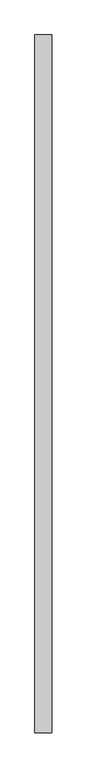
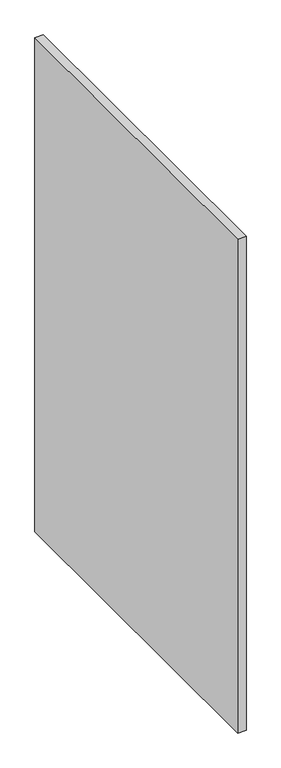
"""IFC4 building model written with IfcOpenShell, lengths in millimetres: furniture geometry, Divisoria_Lateral Fechada : Divisoria_Lateral Fechada_130x180."""

import ifcopenshell
import ifcopenshell.guid

model = None  # the IFC model being written
_history = None  # IfcOwnerHistory: only IFC2X3 demands one
_inside = {}  # id of a spatial element -> (the spatial element, [elements in it])
_under = {}  # id of a project, library or spatial element -> (it, [spatial elements below it])
_declared = {}  # id of a project -> (the project, [libraries it declares])
_typed = {}  # id of a type object -> (the type object, [elements of that type])
_made_of = {}  # id of a material, layer set ... -> (it, [elements and type objects made of it])


def new_model(schema):
    """Start an empty IFC model of exactly this schema.

    Asked for "IFC4X3", IfcOpenShell would pick the latest addendum, in which some entities
    have other attributes; the version numbers below select the first issue.
    IFC2X3 requires an IfcOwnerHistory on every rooted entity: one is made here for all.
    """
    global model, _history
    if schema == "IFC4X3":
        model = ifcopenshell.file(schema_version=(4, 3, 0, 0))
    else:
        model = ifcopenshell.file(schema=schema)
    _inside.clear()
    _under.clear()
    _declared.clear()
    _typed.clear()
    _made_of.clear()
    _history = None
    if model.schema == "IFC2X3":
        org = make("IfcOrganization", Name="unknown")
        user = make(
            "IfcPersonAndOrganization",
            ThePerson=make("IfcPerson", FamilyName="unknown"),
            TheOrganization=org,
        )
        app = make(
            "IfcApplication",
            ApplicationDeveloper=org,
            Version="unknown",
            ApplicationFullName="unknown",
            ApplicationIdentifier="unknown",
        )
        _history = make(
            "IfcOwnerHistory",
            OwningUser=user,
            OwningApplication=app,
            ChangeAction="ADDED",
            CreationDate=0,
        )
    return model


def make(cls, **values):
    """One entity of the class cls with the attributes given. An attribute that is None is left unset."""
    return model.create_entity(
        cls, **{name: value for name, value in values.items() if value is not None}
    )


def rooted(cls, **values):
    """An entity with a GlobalId (a new one), such as an element, a storey or a relation."""
    return make(cls, GlobalId=ifcopenshell.guid.new(), OwnerHistory=_history, **values)


def si_unit(unit_type, name, prefix=None):
    """IfcSIUnit, for example si_unit("LENGTHUNIT", "METRE", prefix="MILLI")."""
    return make("IfcSIUnit", UnitType=unit_type, Prefix=prefix, Name=name)


def assignment(units):
    """IfcUnitAssignment: the units of a project."""
    return None if units is None else make("IfcUnitAssignment", Units=units)


def point(xyz):
    """IfcCartesianPoint."""
    return None if xyz is None else make("IfcCartesianPoint", Coordinates=xyz)


def direction(xyz):
    """IfcDirection."""
    return None if xyz is None else make("IfcDirection", DirectionRatios=xyz)


def frame(location, z_axis=None, x_axis=None):
    """IfcAxis2Placement3D, a coordinate frame: its origin and axes. An axis left out is left unset."""
    return make(
        "IfcAxis2Placement3D",
        Location=point(location),
        Axis=direction(z_axis),
        RefDirection=direction(x_axis),
    )


def origin():
    """The frame at (0, 0, 0) with its axes left unset."""
    return frame((0.0, 0.0, 0.0))


def place(relative_to, where):
    """IfcLocalPlacement: puts the frame where relative to a parent placement (None: the world)."""
    return make(
        "IfcLocalPlacement", PlacementRelTo=relative_to, RelativePlacement=where
    )


def context(
    kind, dimensions, precision=None, world=None, true_north=None, identifier=None
):
    """IfcGeometricRepresentationContext, for example the 3D "Model" context."""
    return make(
        "IfcGeometricRepresentationContext",
        ContextIdentifier=identifier,
        ContextType=kind,
        CoordinateSpaceDimension=dimensions,
        Precision=precision,
        WorldCoordinateSystem=world,
        TrueNorth=true_north,
    )


def project(units=None, contexts=None):
    """IfcProject with its units and contexts."""
    return rooted(
        "IfcProject",
        Name="project",
        RepresentationContexts=contexts,
        UnitsInContext=assignment(units),
    )


def spatial(cls, under=None, at=None, **own):
    """A site, building, storey or space (cls), placed at a placement, below another one or the project."""
    s = rooted(cls, ObjectPlacement=at, **own)
    if under is not None:
        _under.setdefault(under.id(), (under, []))[1].append(s)
    return s


def polyline(points):
    """IfcPolyline through the points."""
    return make("IfcPolyline", Points=[point(p) for p in points])


def outline(outer, holes=None, kind="AREA"):
    """IfcArbitraryClosedProfileDef: a profile drawn as a closed curve; with holes, ...WithVoids."""
    if holes is None:
        return make("IfcArbitraryClosedProfileDef", ProfileType=kind, OuterCurve=outer)
    return make(
        "IfcArbitraryProfileDefWithVoids",
        ProfileType=kind,
        OuterCurve=outer,
        InnerCurves=holes,
    )


def extrude(swept, where, along, depth):
    """IfcExtrudedAreaSolid: the profile swept, set in the frame where, extruded along a direction by depth."""
    return make(
        "IfcExtrudedAreaSolid",
        SweptArea=swept,
        Position=where,
        ExtrudedDirection=direction(along),
        Depth=depth,
    )


def shape(context_of_items, identifier, shape_type, items):
    """IfcShapeRepresentation: the items that make up one representation, for example the "Body"."""
    return make(
        "IfcShapeRepresentation",
        ContextOfItems=context_of_items,
        RepresentationIdentifier=identifier,
        RepresentationType=shape_type,
        Items=items,
    )


def source(mapping_origin, context_of_items, identifier, shape_type, items):
    """IfcRepresentationMap: a shape defined once, which mapped items show again and again."""
    return make(
        "IfcRepresentationMap",
        MappingOrigin=mapping_origin,
        MappedRepresentation=shape(context_of_items, identifier, shape_type, items),
    )


def transform(
    local_origin,
    x_axis=None,
    y_axis=None,
    z_axis=None,
    scale=None,
    scale2=None,
    scale3=None,
    uniform=True,
):
    """IfcCartesianTransformationOperator3D, or its non-uniform kind. x_axis, y_axis, z_axis: its Axis1, 2, 3."""
    if uniform:
        return make(
            "IfcCartesianTransformationOperator3D",
            Axis1=direction(x_axis),
            Axis2=direction(y_axis),
            LocalOrigin=point(local_origin),
            Scale=scale,
            Axis3=direction(z_axis),
        )
    return make(
        "IfcCartesianTransformationOperator3DnonUniform",
        Axis1=direction(x_axis),
        Axis2=direction(y_axis),
        LocalOrigin=point(local_origin),
        Scale=scale,
        Axis3=direction(z_axis),
        Scale2=scale2,
        Scale3=scale3,
    )


def mapped(mapping_source, mapping_target):
    """IfcMappedItem: shows the shape of a source again, moved by a transform."""
    return make(
        "IfcMappedItem", MappingSource=mapping_source, MappingTarget=mapping_target
    )


def made_of(thing, what):
    """Note that an element or type object is made of a material, layer set ...; save() writes the relation."""
    if what is not None:
        _made_of.setdefault(what.id(), (what, []))[1].append(thing)
    return thing


def element(
    cls,
    number,
    at=None,
    inside=None,
    cuts=None,
    type_object=None,
    material=None,
    context=None,
    identifier="Body",
    shape_type=None,
    held_by="IfcProductDefinitionShape",
    body=None,
    shapes=None,
    **own,
):
    """One element of the class cls, such as IfcWall. Its Tag is "e" and its number.

    at: its placement. inside: the storey or other place that contains it. cuts: it is an
    opening in that element (IfcRelVoidsElement). A single representation is given by context,
    identifier, shape_type and body (its items); several are given by shapes. held_by: the class
    of the entity that holds the representations. save() writes the other relations.
    """
    e = rooted(cls, Tag="e%d" % number, ObjectPlacement=at, **own)
    if body is not None:
        shapes = [shape(context, identifier, shape_type, body)]
    if shapes is not None:
        e.Representation = make(held_by, Representations=shapes)
    if inside is not None:
        _inside.setdefault(inside.id(), (inside, []))[1].append(e)
    if cuts is not None:
        rooted(
            "IfcRelVoidsElement", RelatingBuildingElement=cuts, RelatedOpeningElement=e
        )
    if type_object is not None:
        _typed.setdefault(type_object.id(), (type_object, []))[1].append(e)
    return made_of(e, material)


def aggregate(whole, parts):
    """IfcRelAggregates: a whole, such as a stair, and the parts it consists of."""
    return rooted("IfcRelAggregates", RelatingObject=whole, RelatedObjects=parts)


def save(model, path):
    """Write the relations noted so far, then the file.

    IfcRelAggregates (storeys below a building ...), IfcRelContainedInSpatialStructure (elements
    in a storey), IfcRelDefinesByType, IfcRelAssociatesMaterial and IfcRelDeclares: one each for
    every whole, place, type object, material and project.
    """
    for whole, parts in _under.values():
        aggregate(whole, parts)
    for where, things in _inside.values():
        rooted(
            "IfcRelContainedInSpatialStructure",
            RelatedElements=things,
            RelatingStructure=where,
        )
    for kind, things in _typed.values():
        rooted("IfcRelDefinesByType", RelatedObjects=things, RelatingType=kind)
    for what, things in _made_of.values():
        rooted("IfcRelAssociatesMaterial", RelatedObjects=things, RelatingMaterial=what)
    for by, libraries in _declared.values():
        rooted("IfcRelDeclares", RelatingContext=by, RelatedDefinitions=libraries)
    model.write(path)


def furniture_53301e92(model_context):
    return source(origin(), model_context, "Body", "SweptSolid", [
        extrude(outline(polyline([(59.7003264, -50.0), (29.7003264, -50.0), (29.7003264, 1193.2910697), (59.7003264, 1193.2910697), (59.7003264, -50.0)])), frame((0.0, 0.0, 50.0), z_axis=(0.0, 0.0, 1.0), x_axis=(1.0, 0.0, 0.0)), (0.0, 0.0, 1.0), 1850.0),
    ])


if __name__ == "__main__":
    model = new_model("IFC4")
    model_context = context("Model", 3, world=origin())
    ifc_project = project(units=[si_unit("LENGTHUNIT", "METRE", prefix="MILLI")], contexts=[model_context])
    site = spatial("IfcSite", under=ifc_project)
    building = spatial("IfcBuilding", under=site)
    placement = place(None, origin())
    furniture_shape = furniture_53301e92(model_context)
    element("IfcFurniture", 1, ObjectType="Divisoria_Lateral Fechada : Divisoria_Lateral Fechada_130x180", at=placement, inside=building, context=model_context, shape_type="MappedRepresentation", body=[
        mapped(furniture_shape, transform((0.0, 0.0, 0.0), x_axis=(1.0, 0.0, 0.0), y_axis=(0.0, 1.0, 0.0), z_axis=(0.0, 0.0, 1.0))),
    ])
    save(model, "model.ifc")
